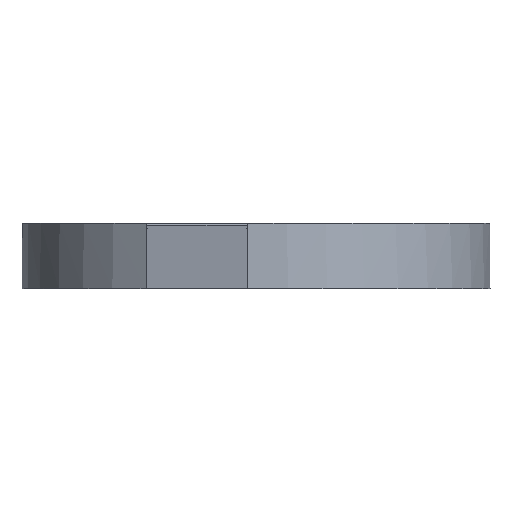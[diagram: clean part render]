
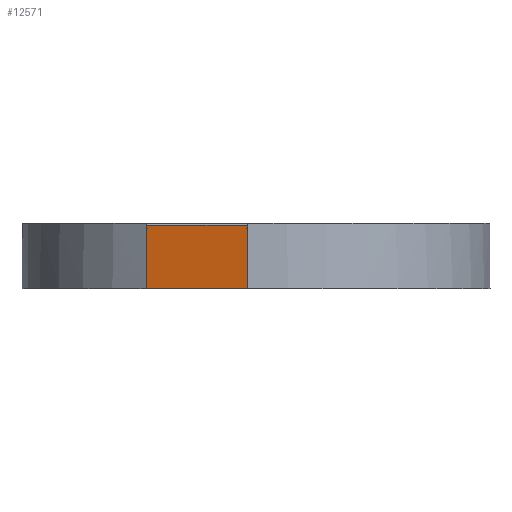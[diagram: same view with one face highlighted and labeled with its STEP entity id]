
A CAD part, front view. The second image highlights one B-rep face of the part: STEP entity #12571.
In plain terms, the highlighted planar face has unit normal (-0.259, -0.966, 0).
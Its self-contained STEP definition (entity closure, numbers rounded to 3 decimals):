
#393=DIRECTION('',(-0.966,0.259,0.));
#394=VECTOR('',#393,40.4);
#395=CARTESIAN_POINT('',(-5.195,-99.101,-19.1));
#396=LINE('',#395,#394);
#3299=DIRECTION('',(0.966,-0.259,0.));
#3300=VECTOR('',#3299,0.2);
#3301=CARTESIAN_POINT('',(-5.388,-99.049,5.9));
#3302=LINE('',#3301,#3300);
#3315=DIRECTION('',(0.966,-0.259,0.));
#3316=VECTOR('',#3315,0.2);
#3317=CARTESIAN_POINT('',(-44.218,-88.645,5.9));
#3318=LINE('',#3317,#3316);
#3565=DIRECTION('',(-0.966,0.259,0.));
#3566=VECTOR('',#3565,0.3);
#3567=CARTESIAN_POINT('',(-5.388,-99.049,3.9));
#3568=LINE('',#3567,#3566);
#3569=DIRECTION('',(-0.966,0.259,0.));
#3570=VECTOR('',#3569,0.3);
#3571=CARTESIAN_POINT('',(-43.735,-88.774,3.9));
#3572=LINE('',#3571,#3570);
#3794=DIRECTION('',(0.,0.,-1.));
#3795=VECTOR('',#3794,25.);
#3796=CARTESIAN_POINT('',(-44.218,-88.645,5.9));
#3797=LINE('',#3796,#3795);
#3803=DIRECTION('',(0.,0.,1.));
#3804=VECTOR('',#3803,25.);
#3805=CARTESIAN_POINT('',(-5.195,-99.101,-19.1));
#3806=LINE('',#3805,#3804);
#4142=DIRECTION('',(0.683,-0.183,-0.707));
#4143=VECTOR('',#4142,0.424);
#4144=CARTESIAN_POINT('',(-44.025,-88.696,4.2));
#4145=LINE('',#4144,#4143);
#4146=DIRECTION('',(0.,0.,1.));
#4147=VECTOR('',#4146,0.6);
#4148=CARTESIAN_POINT('',(-5.388,-99.049,5.3));
#4149=LINE('',#4148,#4147);
#4150=DIRECTION('',(0.,0.,1.));
#4151=VECTOR('',#4150,0.3);
#4152=CARTESIAN_POINT('',(-5.388,-99.049,3.9));
#4153=LINE('',#4152,#4151);
#4154=DIRECTION('',(0.683,-0.183,0.707));
#4155=VECTOR('',#4154,0.424);
#4156=CARTESIAN_POINT('',(-5.677,-98.972,3.9));
#4157=LINE('',#4156,#4155);
#4166=DIRECTION('',(0.,0.,1.));
#4167=VECTOR('',#4166,0.3);
#4168=CARTESIAN_POINT('',(-44.025,-88.696,3.9));
#4169=LINE('',#4168,#4167);
#4170=DIRECTION('',(0.,0.,1.));
#4171=VECTOR('',#4170,0.6);
#4172=CARTESIAN_POINT('',(-44.025,-88.696,5.3));
#4173=LINE('',#4172,#4171);
#4178=DIRECTION('',(0.966,-0.259,0.));
#4179=VECTOR('',#4178,40.);
#4180=CARTESIAN_POINT('',(-44.025,-88.696,5.3));
#4181=LINE('',#4180,#4179);
#6509=CARTESIAN_POINT('',(-5.195,-99.101,-19.1));
#6510=CARTESIAN_POINT('',(-44.218,-88.645,-19.1));
#6511=VERTEX_POINT('',#6509);
#6512=VERTEX_POINT('',#6510);
#7716=CARTESIAN_POINT('',(-43.735,-88.774,3.9));
#7717=VERTEX_POINT('',#7716);
#7718=CARTESIAN_POINT('',(-5.677,-98.972,3.9));
#7720=VERTEX_POINT('',#7718);
#7755=CARTESIAN_POINT('',(-5.388,-99.049,5.9));
#7756=CARTESIAN_POINT('',(-5.195,-99.101,5.9));
#7757=VERTEX_POINT('',#7755);
#7758=VERTEX_POINT('',#7756);
#7759=CARTESIAN_POINT('',(-44.218,-88.645,5.9));
#7760=CARTESIAN_POINT('',(-44.025,-88.696,5.9));
#7761=VERTEX_POINT('',#7759);
#7762=VERTEX_POINT('',#7760);
#7776=CARTESIAN_POINT('',(-44.025,-88.696,4.2));
#7777=VERTEX_POINT('',#7776);
#7780=CARTESIAN_POINT('',(-5.388,-99.049,5.3));
#7782=VERTEX_POINT('',#7780);
#7784=CARTESIAN_POINT('',(-44.025,-88.696,5.3));
#7786=VERTEX_POINT('',#7784);
#7788=CARTESIAN_POINT('',(-5.388,-99.049,4.2));
#7790=VERTEX_POINT('',#7788);
#7851=CARTESIAN_POINT('',(-5.388,-99.049,3.9));
#7852=VERTEX_POINT('',#7851);
#7853=CARTESIAN_POINT('',(-44.025,-88.696,3.9));
#7855=VERTEX_POINT('',#7853);
#12539=CARTESIAN_POINT('',(-5.195,-99.101,-17.1));
#12540=DIRECTION('',(0.259,0.966,0.));
#12541=DIRECTION('',(-0.966,0.259,0.));
#12542=AXIS2_PLACEMENT_3D('',#12539,#12540,#12541);
#12543=PLANE('',#12542);
#12544=ORIENTED_EDGE('',*,*,#12225,.F.);
#12545=ORIENTED_EDGE('',*,*,#11739,.T.);
#12547=ORIENTED_EDGE('',*,*,#12546,.F.);
#12549=ORIENTED_EDGE('',*,*,#12548,.T.);
#12551=ORIENTED_EDGE('',*,*,#12550,.T.);
#12552=ORIENTED_EDGE('',*,*,#11731,.T.);
#12553=ORIENTED_EDGE('',*,*,#12228,.F.);
#12554=ORIENTED_EDGE('',*,*,#8361,.T.);
#12555=EDGE_LOOP('',(#12544,#12545,#12547,#12549,#12551,#12552,#12553,#12554));
#12556=FACE_OUTER_BOUND('',#12555,.F.);
#12558=ORIENTED_EDGE('',*,*,#12557,.F.);
#12560=ORIENTED_EDGE('',*,*,#12559,.F.);
#12561=ORIENTED_EDGE('',*,*,#12056,.F.);
#12562=EDGE_LOOP('',(#12558,#12560,#12561));
#12563=FACE_BOUND('',#12562,.F.);
#12564=ORIENTED_EDGE('',*,*,#12034,.F.);
#12566=ORIENTED_EDGE('',*,*,#12565,.T.);
#12568=ORIENTED_EDGE('',*,*,#12567,.F.);
#12569=EDGE_LOOP('',(#12564,#12566,#12568));
#12570=FACE_BOUND('',#12569,.F.);
#12571=ADVANCED_FACE('',(#12556,#12563,#12570),#12543,.F.);
#8361=EDGE_CURVE('',#6511,#6512,#396,.T.);
#11731=EDGE_CURVE('',#7757,#7758,#3302,.T.);
#11739=EDGE_CURVE('',#7761,#7762,#3318,.T.);
#12034=EDGE_CURVE('',#7852,#7720,#3568,.T.);
#12056=EDGE_CURVE('',#7717,#7855,#3572,.T.);
#12225=EDGE_CURVE('',#7761,#6512,#3797,.T.);
#12228=EDGE_CURVE('',#6511,#7758,#3806,.T.);
#12546=EDGE_CURVE('',#7786,#7762,#4173,.T.);
#12548=EDGE_CURVE('',#7786,#7782,#4181,.T.);
#12550=EDGE_CURVE('',#7782,#7757,#4149,.T.);
#12557=EDGE_CURVE('',#7777,#7717,#4145,.T.);
#12559=EDGE_CURVE('',#7855,#7777,#4169,.T.);
#12565=EDGE_CURVE('',#7852,#7790,#4153,.T.);
#12567=EDGE_CURVE('',#7720,#7790,#4157,.T.);
